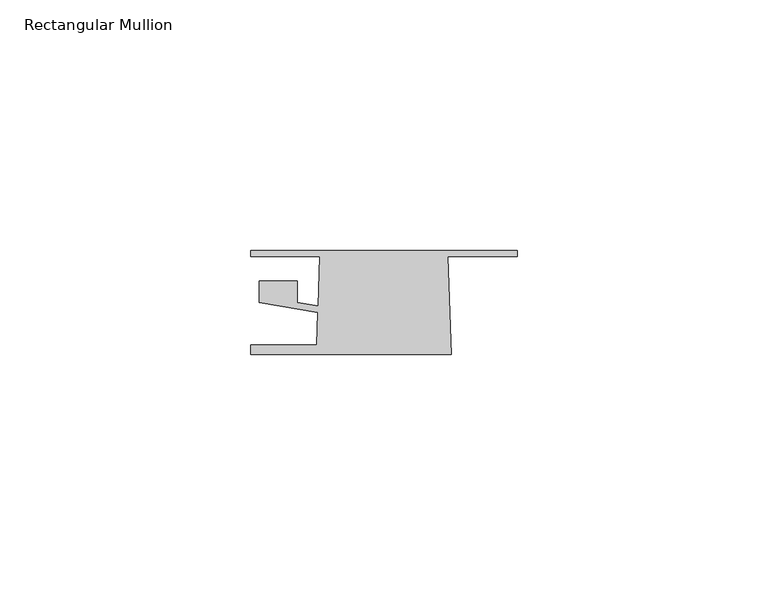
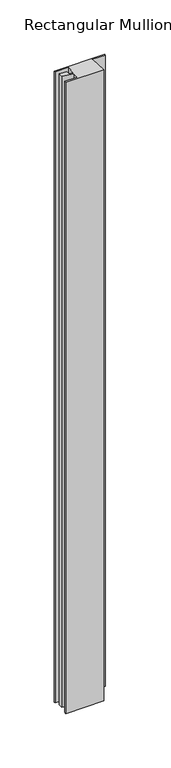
"""IFC4 building model written with IfcOpenShell, lengths in millimetres: member geometry, Rectangular Mullion : QuickPanel-Absolute_Projecting-Window-Jamb-Trim-Right."""

from ifc_helpers import new_model, si_unit, frame, origin, place, context, project, spatial, polyline, outline, extrude, source, transform, mapped, element, save


def rectangular_mullion_dccfdf45(model_context):
    return source(origin(), model_context, "Body", "SweptSolid", [
        extrude(outline(polyline([(13.4553134, -8.6293878), (-26.5896522, -8.6293878), (-26.5896522, -6.6935423), (-13.3749872, -6.6935423), (-13.1482736, -0.2013141), (-24.8382072, 1.8027151), (-24.8382072, 6.096), (-17.2623469, 6.096), (-17.2623469, 1.7924942), (-13.1035451, 1.0795423), (-12.7595465, 10.9303752), (-26.5896522, 10.9303752), (-26.5896522, 12.1803727), (26.6286248, 12.1803727), (26.6286248, 10.9303752), (12.7722714, 10.9303752), (13.4553134, -8.6293878)])), frame((0.0, 0.0, -706.9772532), z_axis=(0.0, 0.0, 1.0), x_axis=(1.0, 0.0, 0.0)), (0.0, 0.0, 1.0), 706.9772532),
    ])


if __name__ == "__main__":
    model = new_model("IFC4")
    model_context = context("Model", 3, world=origin())
    ifc_project = project(units=[si_unit("LENGTHUNIT", "METRE", prefix="MILLI")], contexts=[model_context])
    site = spatial("IfcSite", under=ifc_project)
    building = spatial("IfcBuilding", under=site)
    placement = place(None, origin())
    rectangular_mullion_shape = rectangular_mullion_dccfdf45(model_context)
    element("IfcMember", 1, ObjectType="Rectangular Mullion : QuickPanel-Absolute_Projecting-Window-Jamb-Trim-Right", at=placement, inside=building, context=model_context, shape_type="MappedRepresentation", body=[
        mapped(rectangular_mullion_shape, transform((0.0, 0.0, 0.0), x_axis=(1.0, 0.0, 0.0), y_axis=(0.0, 1.0, 0.0), z_axis=(0.0, 0.0, 1.0))),
    ])
    save(model, "model.ifc")
